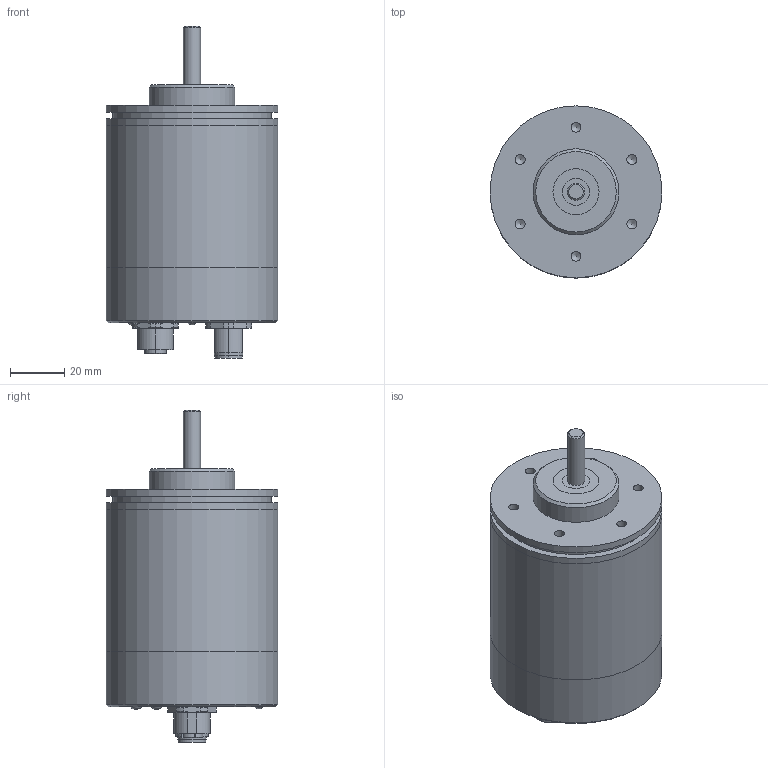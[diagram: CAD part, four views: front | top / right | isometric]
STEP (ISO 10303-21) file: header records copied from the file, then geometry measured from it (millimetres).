
FILE_DESCRIPTION(/* description */ ('Alibre Inc.'),/* implementation_level */ '2;1');
FILE_NAME(/* name */ 'export0',/* time_stamp */ '2010-05-25T09:17:22-04:00',/* author */ (''),/* organization */ (''),/* preprocessor_version */ 'ST-DEVELOPER v10',/* originating_system */ 'Alibre',/* authorisation */ '');
FILE_SCHEMA (('CONFIG_CONTROL_DESIGN'));
Length unit declared in the file: centimetre
Products named in the file (12): ID_1; ID_2; ID_3; ID_4; ID_5; ID_6; ID_7; ID_8; ID_9; ID_10
Bounding box: 63.5 x 63.5 x 122.63 mm (x, y, z)
Volume: 260318.5 mm3; surface area: 47293.9 mm2
Topology: 11 solids, 11 shells, 287 faces, 622 edges, 399 vertices
Faces by surface type: plane 120, cylinder 114, cone 42, bspline 4, sphere 4, torus 3
Full cylindrical faces by diameter (mm): 2.92 x2, 3 x20, 3.65 x6, 3.96 x4, 6.35 x1, 10 x3, 11.5 x2, 17 x2, 24 x1, 26 x2, 31.75 x1, 58.674 x1, 58.72 x2, 63.5 x4
Entity records: 8470 total; most frequent: CARTESIAN_POINT 1386, DIRECTION 1244, ORIENTED_EDGE 1056, AXIS2_PLACEMENT_3D 577, EDGE_CURVE 528, FACE_BOUND 404, EDGE_LOOP 398, VERTEX_POINT 382
